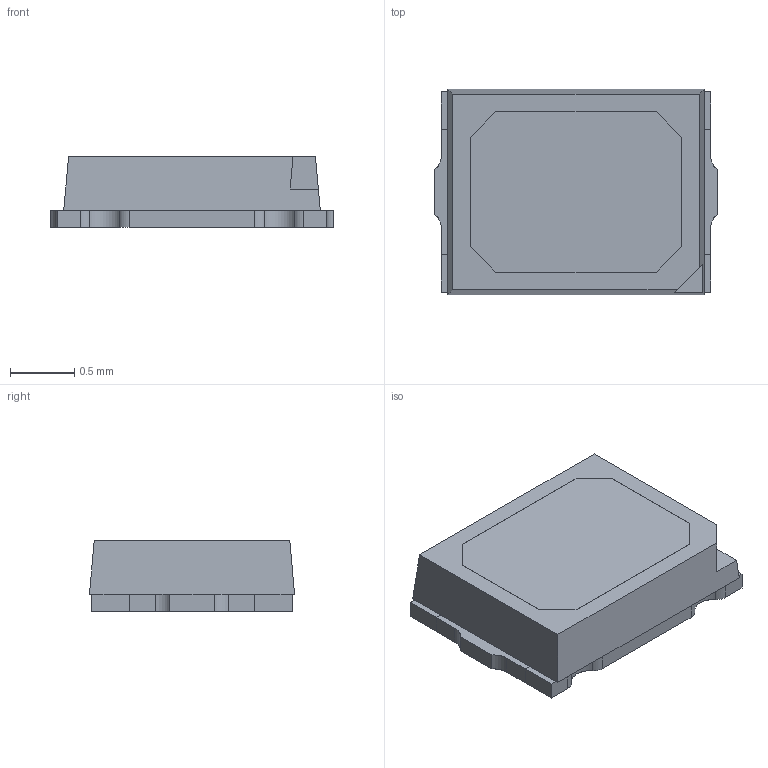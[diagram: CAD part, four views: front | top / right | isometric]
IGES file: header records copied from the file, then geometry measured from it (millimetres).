
Start section: SolidWorks IGES file using analytic representation for surfaces
Global section: file name: C:\Users\user\Desktop\XYY\1-车灯产品3D图汇总\2016\0.2W\A-垂直结构芯片\光学模型\2016C-A-0.2W.IGS; native system: SolidWorks 2022; preprocessor: SolidWorks 2022; author: user; date: 250220.145132; units: millimetre
Bounding box: 2.2 x 1.6 x 0.55 mm (x, y, z)
Surface area: 21 mm2 (no closed solid volume)
Topology: 0 solids, 0 shells, 140 faces, 1298 edges, 1696 vertices
Faces by surface type: bspline 92, revolution 48
